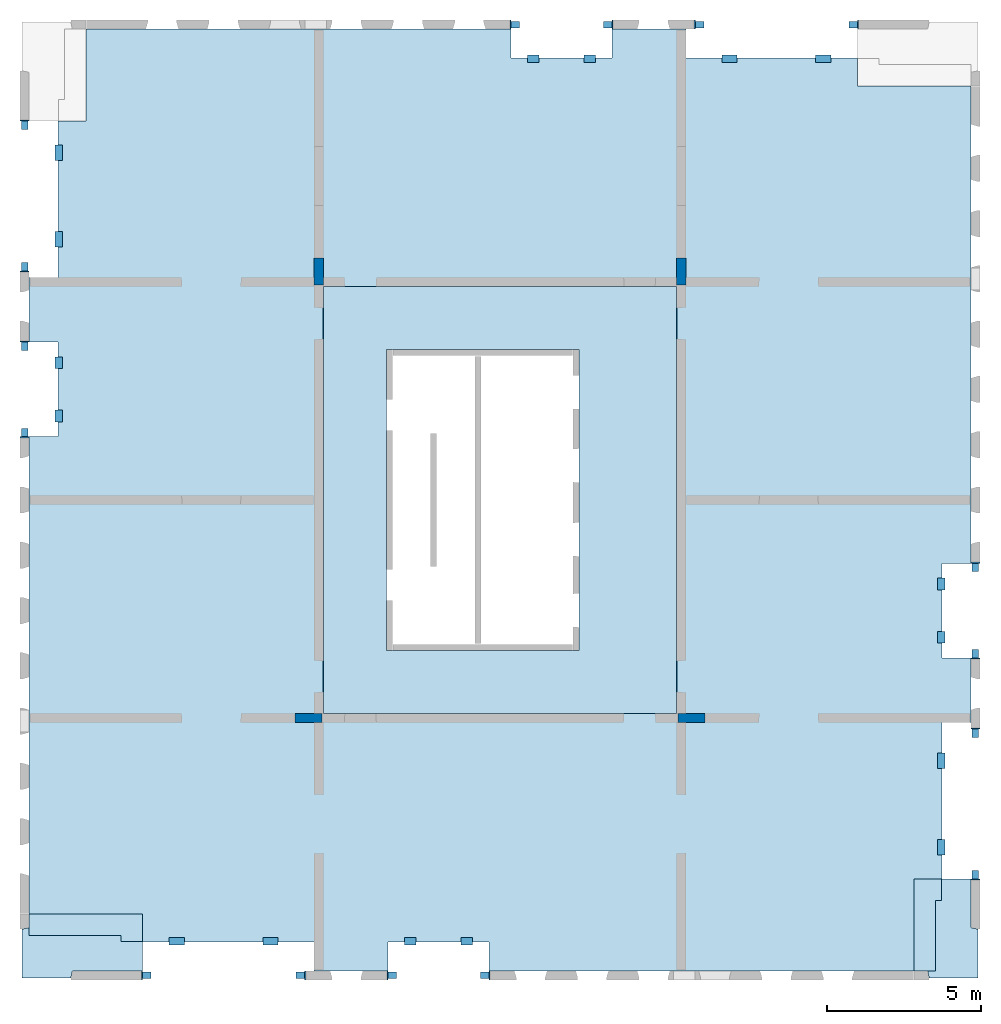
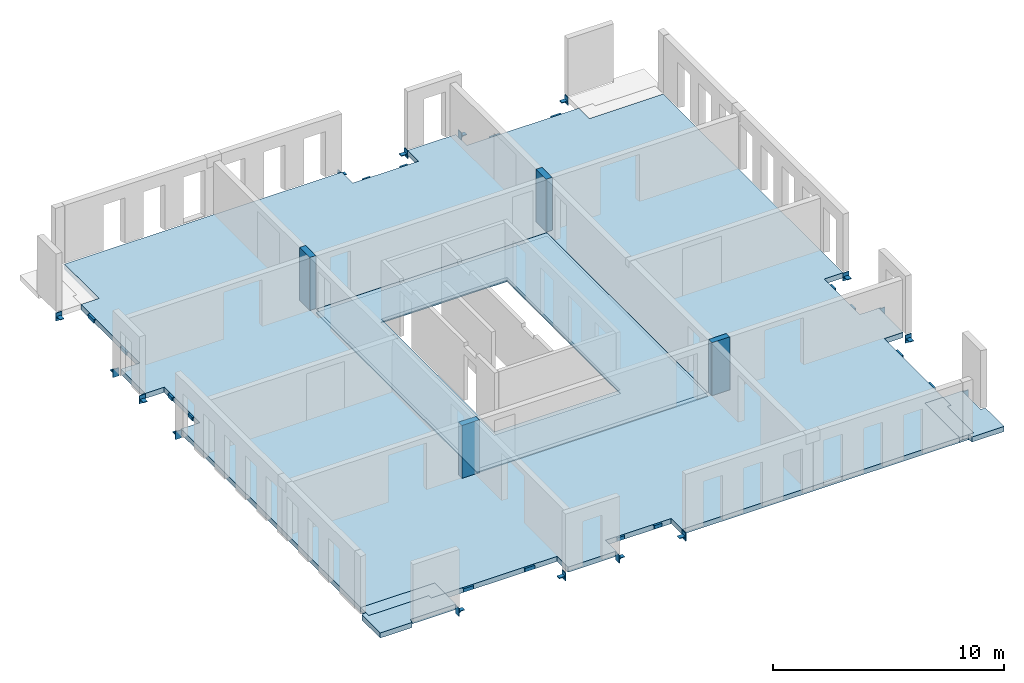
# One storey, part 1 of 4: 32 beams, 7 slabs, 4 columns, 3 openings.
"""IFC2X3 building model written with IfcOpenShell, lengths in millimetres."""

from ifc_helpers import new_model, entity, si_unit, converted_unit, derived_unit, direction, frame, frame_2d, origin, origin_2d_with_axis, place, context, subcontext, project, spatial, polyline, rectangle, outline, extrude, source, transform, mapped, material, layer, layer_set, layer_usage, type_object, type_shapes, element, save


model = new_model("IFC2X3")

# Units and contexts
model_context = context("Model", 3, precision=0.01, world=origin(), true_north=direction((6.12303176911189e-17, 1.0)))
body_context = subcontext(model_context, "Body", "Model", "MODEL_VIEW")
ifc_project = project(units=[si_unit("LENGTHUNIT", "METRE", prefix="MILLI"), si_unit("AREAUNIT", "SQUARE_METRE"), si_unit("VOLUMEUNIT", "CUBIC_METRE"), converted_unit("PLANEANGLEUNIT", "DEGREE", entity("IfcRatioMeasure", 0.0174532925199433), si_unit("PLANEANGLEUNIT", "RADIAN"), dimensions=[0, 0, 0, 0, 0, 0, 0]), si_unit("MASSUNIT", "GRAM", prefix="KILO"), derived_unit("MASSDENSITYUNIT", [(si_unit("MASSUNIT", "GRAM", prefix="KILO"), 1), (si_unit("LENGTHUNIT", "METRE"), -3)]), si_unit("TIMEUNIT", "SECOND"), si_unit("FREQUENCYUNIT", "HERTZ"), si_unit("THERMODYNAMICTEMPERATUREUNIT", "DEGREE_CELSIUS"), derived_unit("THERMALTRANSMITTANCEUNIT", [(si_unit("MASSUNIT", "GRAM", prefix="KILO"), 1), (si_unit("THERMODYNAMICTEMPERATUREUNIT", "KELVIN"), -1), (si_unit("TIMEUNIT", "SECOND"), -3)]), derived_unit("VOLUMETRICFLOWRATEUNIT", [(si_unit("LENGTHUNIT", "METRE"), 3), (si_unit("TIMEUNIT", "SECOND"), -1)]), si_unit("ELECTRICCURRENTUNIT", "AMPERE"), si_unit("ELECTRICVOLTAGEUNIT", "VOLT"), si_unit("POWERUNIT", "WATT"), si_unit("FORCEUNIT", "NEWTON", prefix="KILO"), si_unit("ILLUMINANCEUNIT", "LUX"), si_unit("LUMINOUSFLUXUNIT", "LUMEN"), si_unit("LUMINOUSINTENSITYUNIT", "CANDELA"), derived_unit("USERDEFINED", [(si_unit("MASSUNIT", "GRAM", prefix="KILO"), -1), (si_unit("LENGTHUNIT", "METRE"), -2), (si_unit("TIMEUNIT", "SECOND"), 3), (si_unit("LUMINOUSFLUXUNIT", "LUMEN"), 1)]), derived_unit("LINEARVELOCITYUNIT", [(si_unit("LENGTHUNIT", "METRE"), 1), (si_unit("TIMEUNIT", "SECOND"), -1)]), si_unit("PRESSUREUNIT", "PASCAL"), derived_unit("USERDEFINED", [(si_unit("LENGTHUNIT", "METRE"), -2), (si_unit("MASSUNIT", "GRAM", prefix="KILO"), 1), (si_unit("TIMEUNIT", "SECOND"), -2)])], contexts=[model_context])

# Site, building, storey
site_placement = place(None, origin())
site = spatial("IfcSite", under=ifc_project, at=site_placement, Name="Default", CompositionType="ELEMENT")
building_placement = place(site_placement, origin())
building = spatial("IfcBuilding", under=site, at=building_placement, Name="niet gebruiken", CompositionType="ELEMENT")
storey_placement = place(building_placement, frame((0.0, 0.0, 137340.0)))
storey = spatial("IfcBuildingStorey", under=building, at=storey_placement, Name="44 vierenveertigste verdieping", CompositionType="ELEMENT", Elevation=137340.0)

# Columns
ifc_material_1 = material(Name="NLRS_f2_beton ihwg")
column_type_1 = type_object("IfcColumnType", Name="300x880", PredefinedType="COLUMN", material=ifc_material_1)
shared_shape_1 = source(origin(), body_context, "Body", "SweptSolid", [
    extrude(rectangle(XDim=879.999999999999, YDim=300.000000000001, at=origin_2d_with_axis()), frame((135850.0, 24940.0, 137250.0), z_axis=(0.0, 0.0, 1.0), x_axis=(0.0, -1.0, 0.0)), (0.0, 0.0, 1.0), 2789.99999999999),
])
type_shapes(column_type_1, [shared_shape_1])
column_1_placement = place(storey_placement, frame((0.0, 0.0, -137340.0)))
element("IfcColumn", 1, at=column_1_placement, inside=storey, type_object=column_type_1, material=ifc_material_1, Name="NLRS_28.11_SCO_TLB_beton kolom ihwg_gen:300x880", ObjectType="300x880", context=body_context, shape_type="MappedRepresentation", body=[
    mapped(shared_shape_1, transform((0.0, 0.0, 0.0), scale=1.0)),
])
column_type_2 = type_object("IfcColumnType", Name="300x880", PredefinedType="COLUMN", material=ifc_material_1)
shared_shape_2 = source(origin(), body_context, "Body", "SweptSolid", [
    extrude(rectangle(XDim=879.999999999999, YDim=300.000000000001, at=origin_2d_with_axis()), frame((147650.0, 24940.0, 137250.0), z_axis=(0.0, 0.0, 1.0), x_axis=(0.0, -1.0, 0.0)), (0.0, 0.0, 1.0), 2789.99999999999),
])
type_shapes(column_type_2, [shared_shape_2])
column_2_placement = place(storey_placement, frame((0.0, 0.0, -137340.0)))
element("IfcColumn", 2, at=column_2_placement, inside=storey, type_object=column_type_2, material=ifc_material_1, Name="NLRS_28.11_SCO_TLB_beton kolom ihwg_gen:300x880", ObjectType="300x880", context=body_context, shape_type="MappedRepresentation", body=[
    mapped(shared_shape_2, transform((0.0, 0.0, 0.0), scale=1.0)),
])
column_type_3 = type_object("IfcColumnType", Name="300x880", PredefinedType="COLUMN", material=ifc_material_1)
shared_shape_3 = source(origin(), body_context, "Body", "SweptSolid", [
    extrude(rectangle(XDim=300.000000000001, YDim=880.000000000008, at=origin_2d_with_axis()), frame((135510.003540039, 10400.0, 137250.0), z_axis=(0.0, 0.0, 1.0), x_axis=(0.0, -1.0, 0.0)), (0.0, 0.0, 1.0), 2789.99999999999),
])
type_shapes(column_type_3, [shared_shape_3])
column_3_placement = place(storey_placement, frame((0.0, 0.0, -137340.0)))
element("IfcColumn", 3, at=column_3_placement, inside=storey, type_object=column_type_3, material=ifc_material_1, Name="NLRS_28.11_SCO_TLB_beton kolom ihwg_gen:300x880", ObjectType="300x880", context=body_context, shape_type="MappedRepresentation", body=[
    mapped(shared_shape_3, transform((0.0, 0.0, 0.0), scale=1.0)),
])
column_type_4 = type_object("IfcColumnType", Name="300x880", PredefinedType="COLUMN", material=ifc_material_1)
shared_shape_4 = source(origin(), body_context, "Body", "SweptSolid", [
    extrude(rectangle(XDim=300.000000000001, YDim=880.000000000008, at=origin_2d_with_axis()), frame((147990.0, 10400.0, 137250.0), z_axis=(0.0, 0.0, 1.0), x_axis=(0.0, -1.0, 0.0)), (0.0, 0.0, 1.0), 2789.99999999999),
])
type_shapes(column_type_4, [shared_shape_4])
column_4_placement = place(storey_placement, frame((0.0, 0.0, -137340.0)))
element("IfcColumn", 4, at=column_4_placement, inside=storey, type_object=column_type_4, material=ifc_material_1, Name="NLRS_28.11_SCO_TLB_beton kolom ihwg_gen:300x880", ObjectType="300x880", context=body_context, shape_type="MappedRepresentation", body=[
    mapped(shared_shape_4, transform((0.0, 0.0, 0.0), scale=1.0)),
])

# Beams
ifc_material_2 = material(Name="NLRS_h2_staal")
beam_type_1 = type_object("IfcBeamType", Name="NLRS_28.11_SF_WPB_stalen schoen 4_gen", PredefinedType="BEAM", material=ifc_material_2)
shared_shape_5 = source(origin(), body_context, "Body", "SweptSolid", [
    extrude(outline(polyline([(-69.4999999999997, -23.0), (8.49999999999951, -23.0), (30.5, -1.0), (30.5000000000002, 47.0), (-69.4999999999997, -23.0)])), frame((-105.0, -109.499999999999, -58.0), z_axis=(1.0, 0.0, 0.0), x_axis=(0.0, -1.0, 0.0)), (0.0, 0.0, 1.0), 35.0),
    extrude(outline(polyline([(-69.4999999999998, -23.0), (8.49999999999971, -23.0), (30.5, -1.0), (30.5000000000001, 47.0), (-69.4999999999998, -23.0)])), frame((70.0, -109.499999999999, -58.0), z_axis=(1.0, 0.0, 0.0), x_axis=(0.0, -1.0, 0.0)), (0.0, 0.0, 1.0), 35.0),
    extrude(rectangle(XDim=300.0, YDim=34.9999999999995, at=origin_2d_with_axis()), frame((0.0, -157.5, -230.0), z_axis=(0.0, 0.0, 1.0), x_axis=(-1.0, 0.0, 0.0)), (0.0, 0.0, 1.0), 420.0),
    extrude(rectangle(XDim=210.000000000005, YDim=274.999999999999, at=origin_2d_with_axis()), frame((0.0, -2.4999999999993, -35.0), z_axis=(0.0, 0.0, 1.0), x_axis=(-1.0, 0.0, 0.0)), (0.0, 0.0, 1.0), 35.0),
])
type_shapes(beam_type_1, [shared_shape_5])
beam_1_placement = place(storey_placement, frame((157230.0, 12500.0, -310.0)))
element("IfcBeam", 5, at=beam_1_placement, inside=storey, type_object=beam_type_1, material=ifc_material_2, Name="NLRS_28.11_SF_WPB_stalen schoen 4_gen:NLRS_28.11_SF_WPB_stalen schoen 4_gen", ObjectType="NLRS_28.11_SF_WPB_stalen schoen 4_gen", context=body_context, shape_type="MappedRepresentation", body=[
    mapped(shared_shape_5, transform((0.0, 0.0, 0.0), scale=1.0)),
])
for number, where, z_axis, x_axis, name in (
    (6, (157230.0, 15300.0, -310.0), (0.0, 0.0, 1.0), (-1.0, 0.0, 0.0), "NLRS_28.11_SF_WPB_stalen schoen 4_gen:NLRS_28.11_SF_WPB_stalen schoen 4_gen"),
    (7, (126270.0, 22500.0, -310.0), (0.0, 0.0, 1.0), (-1.0, 0.0, 0.0), "NLRS_28.11_SF_WPB_stalen schoen 4_gen:NLRS_28.11_SF_WPB_stalen schoen 4_gen"),
):
    element("IfcBeam", number, at=place(storey_placement, frame(where, z_axis=z_axis, x_axis=x_axis)), inside=storey, type_object=beam_type_1, material=ifc_material_2, Name=name, ObjectType="NLRS_28.11_SF_WPB_stalen schoen 4_gen", context=body_context, shape_type="MappedRepresentation", body=[
        mapped(shared_shape_5, transform((0.0, 0.0, 0.0), scale=1.0)),
    ])
beam_2_placement = place(storey_placement, frame((126270.0, 19700.0, -310.0)))
element("IfcBeam", 8, at=beam_2_placement, inside=storey, type_object=beam_type_1, material=ifc_material_2, Name="NLRS_28.11_SF_WPB_stalen schoen 4_gen:NLRS_28.11_SF_WPB_stalen schoen 4_gen", ObjectType="NLRS_28.11_SF_WPB_stalen schoen 4_gen", context=body_context, shape_type="MappedRepresentation", body=[
    mapped(shared_shape_5, transform((0.0, 0.0, 0.0), scale=1.0)),
])
for number, where, z_axis, x_axis, name in (
    (9, (138250.0, 2020.0, -310.0), (0.0, 0.0, 1.0), (0.0, -1.0, 0.0), "NLRS_28.11_SF_WPB_stalen schoen 4_gen:NLRS_28.11_SF_WPB_stalen schoen 4_gen"),
    (10, (141250.0, 2020.0, -310.0), (0.0, 0.0, 1.0), (0.0, 1.0, 0.0), "NLRS_28.11_SF_WPB_stalen schoen 4_gen:NLRS_28.11_SF_WPB_stalen schoen 4_gen"),
    (11, (145250.0, 32980.0, -310.0), (0.0, 0.0, 1.0), (0.0, 1.0, 0.0), "NLRS_28.11_SF_WPB_stalen schoen 4_gen:NLRS_28.11_SF_WPB_stalen schoen 4_gen"),
    (12, (142250.0, 32980.0, -310.0), (0.0, 0.0, 1.0), (0.0, -1.0, 0.0), "NLRS_28.11_SF_WPB_stalen schoen 4_gen:NLRS_28.11_SF_WPB_stalen schoen 4_gen"),
):
    element("IfcBeam", number, at=place(storey_placement, frame(where, z_axis=z_axis, x_axis=x_axis)), inside=storey, type_object=beam_type_1, material=ifc_material_2, Name=name, ObjectType="NLRS_28.11_SF_WPB_stalen schoen 4_gen", context=body_context, shape_type="MappedRepresentation", body=[
        mapped(shared_shape_5, transform((0.0, 0.0, 0.0), scale=1.0)),
    ])
beam_type_2 = type_object("IfcBeamType", Name="NLRS_28.11_SF_WPB_stalen schoen 3_gen", PredefinedType="BEAM", material=ifc_material_2)
shared_shape_6 = source(origin(), body_context, "Body", "SweptSolid", [
    extrude(outline(polyline([(-69.4999999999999, -23.0), (8.49999999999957, -23.0), (30.5000000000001, -1.0), (30.5000000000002, 47.0), (-69.4999999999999, -23.0)])), frame((-105.0, -109.499999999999, -63.0), z_axis=(1.0, 0.0, 0.0), x_axis=(0.0, -1.0, 0.0)), (0.0, 0.0, 1.0), 40.0),
    extrude(outline(polyline([(-69.4999999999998, -23.0), (8.49999999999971, -23.0), (30.5, -1.0), (30.5000000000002, 47.0), (-69.4999999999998, -23.0)])), frame((65.0, -109.499999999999, -63.0), z_axis=(1.0, 0.0, 0.0), x_axis=(0.0, -1.0, 0.0)), (0.0, 0.0, 1.0), 40.0),
    extrude(rectangle(XDim=300.0, YDim=39.9999999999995, at=origin_2d_with_axis()), frame((0.0, -160.0, -230.0), z_axis=(0.0, 0.0, 1.0), x_axis=(-1.0, 0.0, 0.0)), (0.0, 0.0, 1.0), 420.0),
    extrude(rectangle(XDim=210.000000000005, YDim=274.999999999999, at=origin_2d_with_axis()), frame((0.0, -2.49999999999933, -40.0), z_axis=(0.0, 0.0, 1.0), x_axis=(-1.0, 0.0, 0.0)), (0.0, 0.0, 1.0), 39.9999999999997),
])
type_shapes(beam_type_2, [shared_shape_6])
beam_3_placement = place(storey_placement, frame((157230.0, 9900.0, -310.0), z_axis=(0.0, 0.0, 1.0), x_axis=(-1.0, 0.0, 0.0)))
element("IfcBeam", 13, at=beam_3_placement, inside=storey, type_object=beam_type_2, material=ifc_material_2, Name="NLRS_28.11_SF_WPB_stalen schoen 3_gen:NLRS_28.11_SF_WPB_stalen schoen 3_gen", ObjectType="NLRS_28.11_SF_WPB_stalen schoen 3_gen", context=body_context, shape_type="MappedRepresentation", body=[
    mapped(shared_shape_6, transform((0.0, 0.0, 0.0), scale=1.0)),
])
for number, where, name in (
    (14, (157230.0, 5300.0, -310.0), "NLRS_28.11_SF_WPB_stalen schoen 3_gen:NLRS_28.11_SF_WPB_stalen schoen 3_gen"),
    (15, (126270.0, 25100.0, -310.0), "NLRS_28.11_SF_WPB_stalen schoen 3_gen:NLRS_28.11_SF_WPB_stalen schoen 3_gen"),
):
    element("IfcBeam", number, at=place(storey_placement, frame(where)), inside=storey, type_object=beam_type_2, material=ifc_material_2, Name=name, ObjectType="NLRS_28.11_SF_WPB_stalen schoen 3_gen", context=body_context, shape_type="MappedRepresentation", body=[
        mapped(shared_shape_6, transform((0.0, 0.0, 0.0), scale=1.0)),
    ])
for number, where, z_axis, x_axis, name in (
    (16, (126270.0, 29700.0, -310.0), (0.0, 0.0, 1.0), (-1.0, 0.0, 0.0), "NLRS_28.11_SF_WPB_stalen schoen 3_gen:NLRS_28.11_SF_WPB_stalen schoen 3_gen"),
    (17, (135250.0, 2020.0, -310.0), (0.0, 0.0, 1.0), (0.0, 1.0, 0.0), "NLRS_28.11_SF_WPB_stalen schoen 3_gen:NLRS_28.11_SF_WPB_stalen schoen 3_gen"),
    (18, (130250.0, 2020.0, -310.0), (0.0, 0.0, 1.0), (0.0, -1.0, 0.0), "NLRS_28.11_SF_WPB_stalen schoen 3_gen:NLRS_28.11_SF_WPB_stalen schoen 3_gen"),
    (19, (148250.0, 32980.0, -310.0), (0.0, 0.0, 1.0), (0.0, -1.0, 0.0), "NLRS_28.11_SF_WPB_stalen schoen 3_gen:NLRS_28.11_SF_WPB_stalen schoen 3_gen"),
    (20, (153250.0, 32980.0, -310.0), (0.0, 0.0, 1.0), (0.0, 1.0, 0.0), "NLRS_28.11_SF_WPB_stalen schoen 3_gen:NLRS_28.11_SF_WPB_stalen schoen 3_gen"),
):
    element("IfcBeam", number, at=place(storey_placement, frame(where, z_axis=z_axis, x_axis=x_axis)), inside=storey, type_object=beam_type_2, material=ifc_material_2, Name=name, ObjectType="NLRS_28.11_SF_WPB_stalen schoen 3_gen", context=body_context, shape_type="MappedRepresentation", body=[
        mapped(shared_shape_6, transform((0.0, 0.0, 0.0), scale=1.0)),
    ])
beam_type_3 = type_object("IfcBeamType", Name="NLRS_28.11_SF_WPB_stalen handje 7 lang 375_gen:NLRS_28.11_SF_WPB_stalen handje 7_gen", PredefinedType="BEAM")
beam_4_placement = place(storey_placement, frame((156235.125015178, 9255.24886461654, -93.0), z_axis=(0.0, 0.0, 1.0), x_axis=(0.0, -1.0, 0.0)))
element("IfcBeam", 21, at=beam_4_placement, inside=storey, type_object=beam_type_3, material=ifc_material_2, Name="NLRS_28.11_SF_WPB_stalen handje 7 lang 375_gen:NLRS_28.11_SF_WPB_stalen handje 7_gen", ObjectType="NLRS_28.11_SF_WPB_stalen handje 7 lang 375_gen:NLRS_28.11_SF_WPB_stalen handje 7_gen", context=body_context, shape_type="SweptSolid", body=[
    extrude(outline(polyline([(-70.6666666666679, -153.333333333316), (-40.6666666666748, -153.333333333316), (-40.6666666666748, 61.66666666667), (111.333333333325, 61.66666666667), (111.333333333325, 91.6666666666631), (-70.6666666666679, 91.6666666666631), (-70.6666666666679, -153.333333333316)])), frame((0.0, -91.6666666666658, -70.6666666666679), z_axis=(1.0, 0.0, 0.0), x_axis=(0.0, 0.0, -1.0)), (0.0, 0.0, 1.0), 500.000000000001),
])
beam_5_placement = place(storey_placement, frame((156235.125015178, 6445.2458243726, -93.0), z_axis=(0.0, 0.0, 1.0), x_axis=(0.0, -1.0, 0.0)))
element("IfcBeam", 22, at=beam_5_placement, inside=storey, type_object=beam_type_3, material=ifc_material_2, Name="NLRS_28.11_SF_WPB_stalen handje 7 lang 375_gen:NLRS_28.11_SF_WPB_stalen handje 7_gen", ObjectType="NLRS_28.11_SF_WPB_stalen handje 7 lang 375_gen:NLRS_28.11_SF_WPB_stalen handje 7_gen", context=body_context, shape_type="SweptSolid", body=[
    extrude(outline(polyline([(-70.6666666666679, -153.333333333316), (-40.6666666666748, -153.333333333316), (-40.6666666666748, 61.66666666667), (111.333333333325, 61.66666666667), (111.333333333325, 91.6666666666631), (-70.6666666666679, 91.6666666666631), (-70.6666666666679, -153.333333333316)])), frame((0.0, -91.6666666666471, -70.6666666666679), z_axis=(1.0, 0.0, 0.0), x_axis=(0.0, 0.0, -1.0)), (0.0, 0.0, 1.0), 500.000000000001),
])
beam_6_placement = place(storey_placement, frame((127264.874984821, 25744.7511353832, -93.0), z_axis=(0.0, 0.0, 1.0), x_axis=(0.0, 1.0, 0.0)))
element("IfcBeam", 23, at=beam_6_placement, inside=storey, type_object=beam_type_3, material=ifc_material_2, Name="NLRS_28.11_SF_WPB_stalen handje 7 lang 375_gen:NLRS_28.11_SF_WPB_stalen handje 7_gen", ObjectType="NLRS_28.11_SF_WPB_stalen handje 7 lang 375_gen:NLRS_28.11_SF_WPB_stalen handje 7_gen", context=body_context, shape_type="SweptSolid", body=[
    extrude(outline(polyline([(-70.6666666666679, -153.333333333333), (-40.6666666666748, -153.333333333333), (-40.6666666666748, 61.66666666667), (111.333333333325, 61.6666666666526), (111.333333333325, 91.6666666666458), (-70.6666666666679, 91.6666666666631), (-70.6666666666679, -153.333333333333)])), frame((0.0, -91.6666666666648, -70.6666666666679), z_axis=(1.0, 0.0, 0.0), x_axis=(0.0, 0.0, -1.0)), (0.0, 0.0, 1.0), 500.000000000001),
])
beam_7_placement = place(storey_placement, frame((127264.874984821, 28554.7541756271, -93.0), z_axis=(0.0, 0.0, 1.0), x_axis=(0.0, 1.0, 0.0)))
element("IfcBeam", 24, at=beam_7_placement, inside=storey, type_object=beam_type_3, material=ifc_material_2, Name="NLRS_28.11_SF_WPB_stalen handje 7 lang 375_gen:NLRS_28.11_SF_WPB_stalen handje 7_gen", ObjectType="NLRS_28.11_SF_WPB_stalen handje 7 lang 375_gen:NLRS_28.11_SF_WPB_stalen handje 7_gen", context=body_context, shape_type="SweptSolid", body=[
    extrude(outline(polyline([(-70.6666666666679, -153.333333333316), (-40.6666666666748, -153.333333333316), (-40.6666666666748, 61.6666666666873), (111.333333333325, 61.66666666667), (111.333333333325, 91.6666666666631), (-70.6666666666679, 91.6666666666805), (-70.6666666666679, -153.333333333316)])), frame((0.0, -91.66666666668, -70.6666666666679), z_axis=(1.0, 0.0, 0.0), x_axis=(0.0, 0.0, -1.0)), (0.0, 0.0, 1.0), 500.000000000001),
])
for number, where, z_axis, x_axis, name in (
    (25, (140862.631597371, 3015.23611279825, -93.0), (0.0, 0.0, 1.0), (-1.0, 0.0, 0.0), "NLRS_28.11_SF_WPB_stalen handje 7 lang 375_gen:NLRS_28.11_SF_WPB_stalen handje 7_gen"),
    (26, (139012.628555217, 3015.2361127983, -93.0), (0.0, 0.0, 1.0), (-1.0, 0.0, 0.0), "NLRS_28.11_SF_WPB_stalen handje 7 lang 375_gen:NLRS_28.11_SF_WPB_stalen handje 7_gen"),
):
    element("IfcBeam", number, at=place(storey_placement, frame(where, z_axis=z_axis, x_axis=x_axis)), inside=storey, type_object=beam_type_3, material=ifc_material_2, Name=name, ObjectType="NLRS_28.11_SF_WPB_stalen handje 7 lang 375_gen:NLRS_28.11_SF_WPB_stalen handje 7_gen", context=body_context, shape_type="SweptSolid", body=[
        extrude(outline(polyline([(-70.666666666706, -153.333333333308), (-40.6666666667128, -153.333333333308), (-40.6666666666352, 61.6666666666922), (111.333333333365, 61.6666666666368), (111.333333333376, 91.6666666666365), (-70.6666666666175, 91.6666666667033), (-70.666666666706, -153.333333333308)])), frame((0.0, -91.6666666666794, -70.6666666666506), z_axis=(1.0, 0.0, 0.0), x_axis=(0.0, 0.0, -1.0)), (0.0, 0.0, 1.0), 375.000000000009),
    ])
for number, where, z_axis, x_axis, name in (
    (27, (134525.131597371, 3015.23611279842, -93.0), (0.0, 0.0, 1.0), (-1.0, 0.0, 0.0), "NLRS_28.11_SF_WPB_stalen handje 7 lang 375_gen:NLRS_28.11_SF_WPB_stalen handje 7_gen"),
    (28, (131475.128555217, 3015.23611279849, -93.0), (0.0, 0.0, 1.0), (-1.0, 0.0, 0.0), "NLRS_28.11_SF_WPB_stalen handje 7 lang 375_gen:NLRS_28.11_SF_WPB_stalen handje 7_gen"),
):
    element("IfcBeam", number, at=place(storey_placement, frame(where, z_axis=z_axis, x_axis=x_axis)), inside=storey, type_object=beam_type_3, material=ifc_material_2, Name=name, ObjectType="NLRS_28.11_SF_WPB_stalen handje 7 lang 375_gen:NLRS_28.11_SF_WPB_stalen handje 7_gen", context=body_context, shape_type="SweptSolid", body=[
        extrude(outline(polyline([(-70.6666666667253, -153.333333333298), (-40.6666666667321, -153.333333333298), (-40.6666666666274, 61.6666666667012), (111.333333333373, 61.6666666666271), (111.333333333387, 91.6666666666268), (-70.6666666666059, 91.666666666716), (-70.6666666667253, -153.333333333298)])), frame((0.0, -91.6666666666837, -70.6666666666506), z_axis=(1.0, 0.0, 0.0), x_axis=(0.0, 0.0, -1.0)), (0.0, 0.0, 1.0), 500.000000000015),
    ])
for number, where, name in (
    (29, (142637.368402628, 31984.7638872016, -93.0), "NLRS_28.11_SF_WPB_stalen handje 7 lang 375_gen:NLRS_28.11_SF_WPB_stalen handje 7_gen"),
    (30, (144487.371444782, 31984.7638872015, -93.0), "NLRS_28.11_SF_WPB_stalen handje 7 lang 375_gen:NLRS_28.11_SF_WPB_stalen handje 7_gen"),
):
    element("IfcBeam", number, at=place(storey_placement, frame(where)), inside=storey, type_object=beam_type_3, material=ifc_material_2, Name=name, ObjectType="NLRS_28.11_SF_WPB_stalen handje 7 lang 375_gen:NLRS_28.11_SF_WPB_stalen handje 7_gen", context=body_context, shape_type="SweptSolid", body=[
        extrude(outline(polyline([(-70.6666666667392, -153.333333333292), (-40.666666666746, -153.333333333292), (-40.6666666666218, 61.6666666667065), (111.333333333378, 61.6666666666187), (111.333333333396, 91.6666666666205), (-70.6666666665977, 91.6666666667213), (-70.6666666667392, -153.333333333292)])), frame((0.0, -91.6666666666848, -70.6666666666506), z_axis=(1.0, 0.0, 0.0), x_axis=(0.0, 0.0, -1.0)), (0.0, 0.0, 1.0), 375.000000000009),
    ])
for number, where, name in (
    (31, (148974.868402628, 31984.7638872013, -93.0), "NLRS_28.11_SF_WPB_stalen handje 7 lang 375_gen:NLRS_28.11_SF_WPB_stalen handje 7_gen"),
    (32, (152024.871444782, 31984.7638872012, -93.0), "NLRS_28.11_SF_WPB_stalen handje 7 lang 375_gen:NLRS_28.11_SF_WPB_stalen handje 7_gen"),
):
    element("IfcBeam", number, at=place(storey_placement, frame(where)), inside=storey, type_object=beam_type_3, material=ifc_material_2, Name=name, ObjectType="NLRS_28.11_SF_WPB_stalen handje 7 lang 375_gen:NLRS_28.11_SF_WPB_stalen handje 7_gen", context=body_context, shape_type="SweptSolid", body=[
        extrude(outline(polyline([(-70.6666666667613, -153.333333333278), (-40.6666666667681, -153.333333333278), (-40.6666666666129, 61.6666666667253), (111.333333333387, 61.6666666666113), (111.333333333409, 91.6666666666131), (-70.6666666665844, 91.6666666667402), (-70.6666666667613, -153.333333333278)])), frame((0.0, -91.6666666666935, -70.6666666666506), z_axis=(1.0, 0.0, 0.0), x_axis=(0.0, 0.0, -1.0)), (0.0, 0.0, 1.0), 500.000000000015),
    ])
beam_8_placement = place(storey_placement, frame((156235.0, 14952.5097115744, -93.0), z_axis=(0.0, 0.0, 1.0), x_axis=(0.0, -1.0, 0.0)))
element("IfcBeam", 33, at=beam_8_placement, inside=storey, type_object=beam_type_3, material=ifc_material_2, Name="NLRS_28.11_SF_WPB_stalen handje 7 lang 375_gen:NLRS_28.11_SF_WPB_stalen handje 7_gen", ObjectType="NLRS_28.11_SF_WPB_stalen handje 7 lang 375_gen:NLRS_28.11_SF_WPB_stalen handje 7_gen", context=body_context, shape_type="SweptSolid", body=[
    extrude(outline(polyline([(-70.6666666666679, -153.333333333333), (-40.6666666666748, -153.333333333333), (-40.6666666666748, 61.66666666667), (111.333333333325, 61.66666666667), (111.333333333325, 91.6666666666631), (-70.6666666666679, 91.6666666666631), (-70.6666666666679, -153.333333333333)])), frame((0.0, -91.6666666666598, -70.6666666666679), z_axis=(1.0, 0.0, 0.0), x_axis=(0.0, 0.0, -1.0)), (0.0, 0.0, 1.0), 375.000000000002),
])
beam_9_placement = place(storey_placement, frame((156235.0, 13222.5097115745, -93.0), z_axis=(0.0, 0.0, 1.0), x_axis=(0.0, -1.0, 0.0)))
element("IfcBeam", 34, at=beam_9_placement, inside=storey, type_object=beam_type_3, material=ifc_material_2, Name="NLRS_28.11_SF_WPB_stalen handje 7 lang 375_gen:NLRS_28.11_SF_WPB_stalen handje 7_gen", ObjectType="NLRS_28.11_SF_WPB_stalen handje 7 lang 375_gen:NLRS_28.11_SF_WPB_stalen handje 7_gen", context=body_context, shape_type="SweptSolid", body=[
    extrude(outline(polyline([(-70.6666666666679, -153.333333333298), (-40.6666666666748, -153.333333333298), (-40.6666666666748, 61.6666666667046), (111.333333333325, 61.6666666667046), (111.333333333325, 91.6666666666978), (-70.6666666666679, 91.6666666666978), (-70.6666666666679, -153.333333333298)])), frame((0.0, -91.6666666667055, -70.6666666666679), z_axis=(1.0, 0.0, 0.0), x_axis=(0.0, 0.0, -1.0)), (0.0, 0.0, 1.0), 375.000000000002),
])
beam_10_placement = place(storey_placement, frame((127265.0, 20047.4902884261, -93.0), z_axis=(0.0, 0.0, 1.0), x_axis=(0.0, 1.0, 0.0)))
element("IfcBeam", 35, at=beam_10_placement, inside=storey, type_object=beam_type_3, material=ifc_material_2, Name="NLRS_28.11_SF_WPB_stalen handje 7 lang 375_gen:NLRS_28.11_SF_WPB_stalen handje 7_gen", ObjectType="NLRS_28.11_SF_WPB_stalen handje 7 lang 375_gen:NLRS_28.11_SF_WPB_stalen handje 7_gen", context=body_context, shape_type="SweptSolid", body=[
    extrude(outline(polyline([(-70.6666666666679, -153.333333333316), (-40.6666666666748, -153.333333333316), (-40.6666666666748, 61.6666666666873), (111.333333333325, 61.66666666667), (111.333333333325, 91.6666666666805), (-70.6666666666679, 91.6666666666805), (-70.6666666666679, -153.333333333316)])), frame((0.0, -91.6666666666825, -70.6666666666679), z_axis=(1.0, 0.0, 0.0), x_axis=(0.0, 0.0, -1.0)), (0.0, 0.0, 1.0), 375.000000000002),
])
beam_11_placement = place(storey_placement, frame((127265.0, 21777.4902884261, -93.0), z_axis=(0.0, 0.0, 1.0), x_axis=(0.0, 1.0, 0.0)))
element("IfcBeam", 36, at=beam_11_placement, inside=storey, type_object=beam_type_3, material=ifc_material_2, Name="NLRS_28.11_SF_WPB_stalen handje 7 lang 375_gen:NLRS_28.11_SF_WPB_stalen handje 7_gen", ObjectType="NLRS_28.11_SF_WPB_stalen handje 7 lang 375_gen:NLRS_28.11_SF_WPB_stalen handje 7_gen", context=body_context, shape_type="SweptSolid", body=[
    extrude(outline(polyline([(-70.6666666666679, -153.33333333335), (-40.6666666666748, -153.33333333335), (-40.6666666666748, 61.6666666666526), (111.333333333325, 61.6666666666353), (111.333333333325, 91.6666666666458), (-70.6666666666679, 91.6666666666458), (-70.6666666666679, -153.33333333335)])), frame((0.0, -91.6666666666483, -70.6666666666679), z_axis=(1.0, 0.0, 0.0), x_axis=(0.0, 0.0, -1.0)), (0.0, 0.0, 1.0), 375.000000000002),
])

# Slabs
ifc_material_3 = material(Name="NLRS_f2_beton prefab")
ifc_layer_1 = layer(ifc_material_3, 270.0)
ifc_layer_set_1 = layer_set([ifc_layer_1], Name="Floor:NLRS_23.22_FL_beton prefab d=270 3D element_gen")
ifc_layer_usage_1 = layer_usage(ifc_layer_set_1, "AXIS3", "POSITIVE", 0.0)
slab_1_placement = place(storey_placement, origin())
element("IfcSlab", 37, at=slab_1_placement, inside=storey, material=ifc_layer_usage_1, Name="Floor:NLRS_23.22_FL_beton prefab d=270 3D element_gen", ObjectType="Floor:NLRS_23.22_FL_beton prefab d=270 3D element_gen", PredefinedType="LANDING", context=body_context, shape_type="SweptSolid", body=[
    extrude(outline(polyline([(-1034.47139498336, -1100.52860501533), (1955.52860501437, -1100.52860501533), (1955.52860501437, 749.471394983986), (370.152429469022, 749.471394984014), (322.675940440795, 982.471394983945), (-1267.47139498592, 982.471394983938), (-1267.47139498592, -607.675940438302), (-1034.47139498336, -655.152429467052), (-1034.47139498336, -1100.52860501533)])), frame((156330.528605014, 3204.47139498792, -90.0), z_axis=(0.0, 0.0, -1.0), x_axis=(0.0, 1.0, 0.0)), (0.0, 0.0, 1.0), 270.000000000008),
])
ifc_layer_2 = layer(ifc_material_1, 170.0)
ifc_layer_set_2 = layer_set([ifc_layer_2], Name="Floor:NLRS_23.21_FL_beton ihwg d=170_gen")
ifc_layer_usage_2 = layer_usage(ifc_layer_set_2, "AXIS3", "POSITIVE", 0.0)
slab_2_placement = place(storey_placement, origin())
element("IfcSlab", 38, at=slab_2_placement, inside=storey, material=ifc_layer_usage_2, Name="Floor:NLRS_23.21_FL_beton ihwg d=170_gen", ObjectType="Floor:NLRS_23.21_FL_beton ihwg d=170_gen", PredefinedType="FLOOR", context=body_context, shape_type="SweptSolid", body=[
    extrude(outline(polyline([(-1760.0, -533.33333333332), (1230.0, -533.33333333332), (1230.0, 366.666666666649), (530.0, 366.666666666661), (530.0, 166.666666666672), (-1760.0, 166.666666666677), (-1760.0, -533.33333333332)])), frame((155763.333333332, 3930.0, -90.0), z_axis=(0.0, 0.0, -1.0), x_axis=(0.0, 1.0, 0.0)), (0.0, 0.0, 1.0), 169.999999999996),
])
ifc_layer_usage_3 = layer_usage(ifc_layer_set_1, "AXIS3", "POSITIVE", 0.0)
slab_3_placement = place(storey_placement, origin())
element("IfcSlab", 39, at=slab_3_placement, inside=storey, material=ifc_layer_usage_3, Name="Floor:NLRS_23.22_FL_beton prefab d=270 3D element_gen", ObjectType="Floor:NLRS_23.22_FL_beton prefab d=270 3D element_gen", PredefinedType="LANDING", context=body_context, shape_type="SweptSolid", body=[
    extrude(outline(polyline([(-982.471394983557, -1442.47139498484), (607.67594043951, -1442.47139498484), (655.152429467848, -1209.47139498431), (1100.52860501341, -1209.47139498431), (1100.52860501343, 2480.5286050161), (-749.471394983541, 2480.5286050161), (-749.471394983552, 195.15242946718), (-982.47139498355, 147.675940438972), (-982.471394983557, -1442.47139498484)])), frame((127629.471394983, 2919.47139499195, -90.0), z_axis=(0.0, 0.0, -1.0), x_axis=(0.0, 1.0, 0.0)), (0.0, 0.0, 1.0), 270.000000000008),
])
ifc_layer_usage_4 = layer_usage(ifc_layer_set_2, "AXIS3", "POSITIVE", 0.0)
slab_4_placement = place(storey_placement, origin())
element("IfcSlab", 40, at=slab_4_placement, inside=storey, material=ifc_layer_usage_4, Name="Floor:NLRS_23.21_FL_beton ihwg d=170_gen", ObjectType="Floor:NLRS_23.21_FL_beton ihwg d=170_gen", PredefinedType="FLOOR", context=body_context, shape_type="SweptSolid", body=[
    extrude(outline(polyline([(-166.666666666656, -2226.66666666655), (533.333333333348, -2226.66666666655), (533.333333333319, 1463.33333333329), (-366.666666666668, 1463.33333333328), (-366.666666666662, 763.333333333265), (-166.666666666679, 763.333333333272), (-166.666666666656, -2226.66666666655)])), frame((128646.666666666, 3486.66666667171, -90.0), z_axis=(0.0, 0.0, -1.0), x_axis=(0.0, 1.0, 0.0)), (0.0, 0.0, 1.0), 169.999999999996),
])

# Slab, opening
ifc_layer_3 = layer(ifc_material_1, 230.0)
ifc_layer_set_3 = layer_set([ifc_layer_3], Name="Floor:NLRS_23.21_FL_vloer=230_gen")
ifc_layer_usage_5 = layer_usage(ifc_layer_set_3, "AXIS3", "POSITIVE", 0.0)
slab_5_placement = place(storey_placement, frame((136000.0, 10549.7638872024, -320.0)))
slab_5 = element("IfcSlab", 41, at=slab_5_placement, inside=storey, material=ifc_layer_usage_5, Name="Floor:NLRS_23.21_FL_vloer=230_gen", ObjectType="Floor:NLRS_23.21_FL_vloer=230_gen", PredefinedType="FLOOR", context=body_context, shape_type="SweptSolid", body=[
    extrude(rectangle(XDim=13900.2361127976, YDim=11500.0, at=frame_2d((0.0, 0.0), x_axis=(0.0, -1.0))), frame((5750.0, 6950.11805639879, 230.0), z_axis=(0.0, 0.0, -1.0), x_axis=(-1.0, 0.0, 0.0)), (0.0, 0.0, 1.0), 230.0),
])
opening_1_placement = place(slab_5_placement, frame((5190.0, 6950.23611279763, 230.0)))
element("IfcOpeningElement", 42, at=opening_1_placement, cuts=slab_5, Name="Floor:NLRS_23.21_FL_vloer=230_gen:2", ObjectType="Opening", context=body_context, shape_type="SweptSolid", body=[
    extrude(rectangle(XDim=9800.0, YDim=6279.99999999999, at=origin_2d_with_axis()), frame((0.0, 0.0, 0.0), z_axis=(0.0, 0.0, -1.0), x_axis=(0.0, -1.0, 0.0)), (0.0, 0.0, 1.0), 230.0),
])

ifc_layer_4 = layer(ifc_material_1, 270.0)
ifc_layer_set_4 = layer_set([ifc_layer_4], Name="Floor:NLRS_23.21_FL_vloer d=270_gen")
ifc_layer_usage_6 = layer_usage(ifc_layer_set_4, "AXIS3", "POSITIVE", 0.0)
slab_6_placement = place(storey_placement, frame((126420.0, 2170.0, -360.0)))
slab_6 = element("IfcSlab", 43, at=slab_6_placement, inside=storey, material=ifc_layer_usage_6, Name="Floor:NLRS_23.21_FL_vloer d=270_gen", ObjectType="Floor:NLRS_23.21_FL_vloer d=270_gen", PredefinedType="FLOOR", context=body_context, shape_type="SweptSolid", body=[
    extrude(outline(polyline([(-360.0, 15330.0), (-360.0, 14385.0), (-3640.0, 14385.0), (-3640.0, 15330.0), (-6050.0, 15330.0), (-6050.0, 14385.0), (-11640.0, 14385.0), (-11640.0, 13480.0), (-15330.0, 13480.0), (-15330.0, -2060.0), (-14385.0, -2060.0), (-14385.0, -5140.0), (-15330.0, -5140.0), (-15330.0, -7250.0), (-14385.0, -7250.0), (-14385.0, -12340.0), (-13480.0, -12340.0), (-13480.0, -15330.0), (360.0, -15330.0), (360.0, -14385.0), (3640.0, -14385.0), (3640.0, -15330.0), (6050.0, -15330.0), (6050.0, -14385.0), (11640.0, -14385.0), (11640.0, -13480.0), (15330.0, -13480.0), (15330.0, 2060.0), (14385.0, 2060.0), (14385.0, 5140.0), (15330.0, 5140.0), (15330.0, 7250.0), (14385.0, 7250.0), (14385.0, 12340.0), (13480.0, 12340.0), (13480.0, 15330.0), (-360.0, 15330.0)])), frame((15330.0, 15330.0, 270.0), z_axis=(0.0, 0.0, -1.0), x_axis=(-1.0, 0.0, 0.0)), (0.0, 0.0, 1.0), 270.000000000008),
])
opening_2_placement = place(slab_6_placement, frame((15330.0, 15330.0, 270.0)))
element("IfcOpeningElement", 44, at=opening_2_placement, cuts=slab_6, Name="Floor:NLRS_23.21_FL_vloer d=270_gen:2", ObjectType="Opening", context=body_context, shape_type="SweptSolid", body=[
    extrude(rectangle(XDim=13899.9999999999, YDim=11500.0, at=origin_2d_with_axis()), frame((0.0, 0.0, 0.0), z_axis=(0.0, 0.0, -1.0), x_axis=(0.0, -1.0, 0.0)), (0.0, 0.0, 1.0), 270.000000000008),
])

ifc_layer_5 = layer(ifc_material_3, 60.0)
ifc_layer_set_5 = layer_set([ifc_layer_5], Name="Floor:NLRS_23.21_FL_breedplaat d=60_gen")
ifc_layer_usage_7 = layer_usage(ifc_layer_set_5, "AXIS3", "POSITIVE", 0.0)
slab_7_placement = place(storey_placement, frame((135990.0, 10540.0, -320.0)))
slab_7 = element("IfcSlab", 45, at=slab_7_placement, inside=storey, material=ifc_layer_usage_7, Name="Floor:NLRS_23.21_FL_breedplaat d=60_gen", ObjectType="Floor:NLRS_23.21_FL_breedplaat d=60_gen", PredefinedType="FLOOR", context=body_context, shape_type="SweptSolid", body=[
    extrude(rectangle(XDim=13919.9999999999, YDim=11520.0, at=frame_2d((0.0, 0.0), x_axis=(0.0, -1.0))), frame((5760.0, 6960.0, 60.0), z_axis=(0.0, 0.0, -1.0), x_axis=(-1.0, 0.0, 0.0)), (0.0, 0.0, 1.0), 60.0000000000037),
])
opening_3_placement = place(slab_7_placement, frame((5200.0, 6960.0, 60.0)))
element("IfcOpeningElement", 46, at=opening_3_placement, cuts=slab_7, Name="Floor:NLRS_23.21_FL_breedplaat d=60_gen:2", ObjectType="Opening", context=body_context, shape_type="SweptSolid", body=[
    extrude(rectangle(XDim=9820.0, YDim=6299.99999999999, at=origin_2d_with_axis()), frame((0.0, 0.0, 0.0), z_axis=(0.0, 0.0, -1.0), x_axis=(0.0, -1.0, 0.0)), (0.0, 0.0, 1.0), 60.0000000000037),
])

save(model, "model.ifc")
